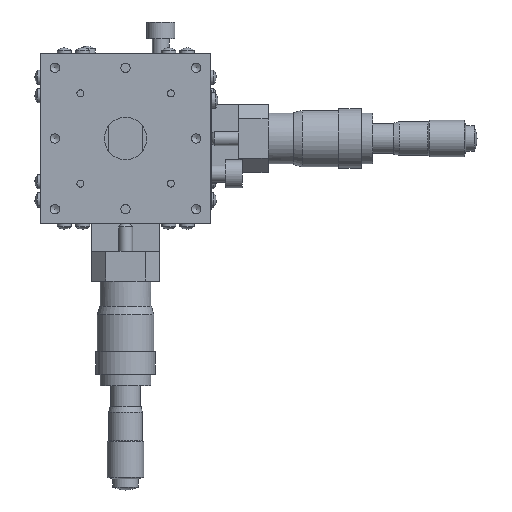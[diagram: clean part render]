
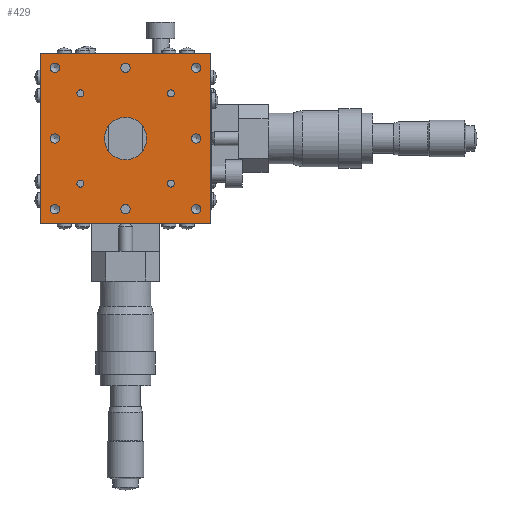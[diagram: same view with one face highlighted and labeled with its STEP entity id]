
A CAD part, top view. The second image highlights one B-rep face of the part: STEP entity #429.
In plain terms, the highlighted planar face has unit normal (0, 0, 1).
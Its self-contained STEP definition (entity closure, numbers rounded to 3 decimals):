
#429 = ADVANCED_FACE( '', ( #1135, #1136, #1137, #1138, #1139, #1140, #1141, #1142, #1143, #1144, #1145, #1146, #1147, #1148 ), #1149, .T. );
#1135 = FACE_BOUND( '', #2360, .T. );
#1136 = FACE_BOUND( '', #2361, .T. );
#1137 = FACE_BOUND( '', #2362, .T. );
#1138 = FACE_BOUND( '', #2363, .T. );
#1139 = FACE_BOUND( '', #2364, .T. );
#1140 = FACE_BOUND( '', #2365, .T. );
#1141 = FACE_BOUND( '', #2366, .T. );
#1142 = FACE_BOUND( '', #2367, .T. );
#1143 = FACE_BOUND( '', #2368, .T. );
#1144 = FACE_BOUND( '', #2369, .T. );
#1145 = FACE_BOUND( '', #2370, .T. );
#1146 = FACE_BOUND( '', #2371, .T. );
#1147 = FACE_OUTER_BOUND( '', #2372, .T. );
#1148 = FACE_BOUND( '', #2373, .T. );
#1149 = PLANE( '', #2374 );
#2360 = EDGE_LOOP( '', ( #3618 ) );
#2361 = EDGE_LOOP( '', ( #3619 ) );
#2362 = EDGE_LOOP( '', ( #3620 ) );
#2363 = EDGE_LOOP( '', ( #3621 ) );
#2364 = EDGE_LOOP( '', ( #3622 ) );
#2365 = EDGE_LOOP( '', ( #3623 ) );
#2366 = EDGE_LOOP( '', ( #3624 ) );
#2367 = EDGE_LOOP( '', ( #3625 ) );
#2368 = EDGE_LOOP( '', ( #3626 ) );
#2369 = EDGE_LOOP( '', ( #3627 ) );
#2370 = EDGE_LOOP( '', ( #3628 ) );
#2371 = EDGE_LOOP( '', ( #3629 ) );
#2372 = EDGE_LOOP( '', ( #3630, #3631, #3632, #3633 ) );
#2373 = EDGE_LOOP( '', ( #3634 ) );
#2374 = AXIS2_PLACEMENT_3D( '', #3635, #3636, #3637 );
#3618 = ORIENTED_EDGE( '', *, *, #5931, .T. );
#3619 = ORIENTED_EDGE( '', *, *, #5932, .T. );
#3620 = ORIENTED_EDGE( '', *, *, #5933, .T. );
#3621 = ORIENTED_EDGE( '', *, *, #5934, .T. );
#3622 = ORIENTED_EDGE( '', *, *, #5935, .T. );
#3623 = ORIENTED_EDGE( '', *, *, #5936, .T. );
#3624 = ORIENTED_EDGE( '', *, *, #5937, .T. );
#3625 = ORIENTED_EDGE( '', *, *, #5938, .T. );
#3626 = ORIENTED_EDGE( '', *, *, #5939, .T. );
#3627 = ORIENTED_EDGE( '', *, *, #5940, .T. );
#3628 = ORIENTED_EDGE( '', *, *, #5941, .T. );
#3629 = ORIENTED_EDGE( '', *, *, #5942, .T. );
#3630 = ORIENTED_EDGE( '', *, *, #5852, .F. );
#3631 = ORIENTED_EDGE( '', *, *, #5943, .F. );
#3632 = ORIENTED_EDGE( '', *, *, #5944, .F. );
#3633 = ORIENTED_EDGE( '', *, *, #5914, .F. );
#3634 = ORIENTED_EDGE( '', *, *, #5945, .T. );
#3635 = CARTESIAN_POINT( '', ( 0., 0., 40. ) );
#3636 = DIRECTION( '', ( 0., 0., 1. ) );
#3637 = DIRECTION( '', ( 0., 1., 0. ) );
#5852 = EDGE_CURVE( '', #6740, #6742, #6743, .T. );
#5914 = EDGE_CURVE( '', #6742, #6843, #6844, .T. );
#5931 = EDGE_CURVE( '', #6871, #6871, #6872, .T. );
#5932 = EDGE_CURVE( '', #6873, #6873, #6874, .T. );
#5933 = EDGE_CURVE( '', #6875, #6875, #6876, .T. );
#5934 = EDGE_CURVE( '', #6877, #6877, #6878, .T. );
#5935 = EDGE_CURVE( '', #6879, #6879, #6880, .T. );
#5936 = EDGE_CURVE( '', #6881, #6881, #6882, .T. );
#5937 = EDGE_CURVE( '', #6883, #6883, #6884, .T. );
#5938 = EDGE_CURVE( '', #6885, #6885, #6886, .T. );
#5939 = EDGE_CURVE( '', #6887, #6887, #6888, .T. );
#5940 = EDGE_CURVE( '', #6889, #6889, #6890, .T. );
#5941 = EDGE_CURVE( '', #6891, #6891, #6892, .T. );
#5942 = EDGE_CURVE( '', #6893, #6893, #6894, .T. );
#5943 = EDGE_CURVE( '', #6895, #6740, #6896, .T. );
#5944 = EDGE_CURVE( '', #6843, #6895, #6897, .T. );
#5945 = EDGE_CURVE( '', #6898, #6898, #6899, .T. );
#6740 = VERTEX_POINT( '', #8052 );
#6742 = VERTEX_POINT( '', #8055 );
#6743 = LINE( '', #8056, #8057 );
#6843 = VERTEX_POINT( '', #8170 );
#6844 = LINE( '', #8171, #8172 );
#6871 = VERTEX_POINT( '', #8204 );
#6872 = CIRCLE( '', #8205, 1.25 );
#6873 = VERTEX_POINT( '', #8206 );
#6874 = CIRCLE( '', #8207, 1.25 );
#6875 = VERTEX_POINT( '', #8208 );
#6876 = CIRCLE( '', #8209, 1.25 );
#6877 = VERTEX_POINT( '', #8210 );
#6878 = CIRCLE( '', #8211, 1.25 );
#6879 = VERTEX_POINT( '', #8212 );
#6880 = CIRCLE( '', #8213, 1.65 );
#6881 = VERTEX_POINT( '', #8214 );
#6882 = CIRCLE( '', #8215, 1.65 );
#6883 = VERTEX_POINT( '', #8216 );
#6884 = CIRCLE( '', #8217, 1.65 );
#6885 = VERTEX_POINT( '', #8218 );
#6886 = CIRCLE( '', #8219, 1.65 );
#6887 = VERTEX_POINT( '', #8220 );
#6888 = CIRCLE( '', #8221, 1.65 );
#6889 = VERTEX_POINT( '', #8222 );
#6890 = CIRCLE( '', #8223, 1.65 );
#6891 = VERTEX_POINT( '', #8224 );
#6892 = CIRCLE( '', #8225, 1.65 );
#6893 = VERTEX_POINT( '', #8226 );
#6894 = CIRCLE( '', #8227, 1.65 );
#6895 = VERTEX_POINT( '', #8228 );
#6896 = LINE( '', #8229, #8230 );
#6897 = LINE( '', #8231, #8232 );
#6898 = VERTEX_POINT( '', #8233 );
#6899 = CIRCLE( '', #8234, 7.5 );
#8052 = CARTESIAN_POINT( '', ( -30., 30., 40. ) );
#8055 = CARTESIAN_POINT( '', ( 30., 30., 40. ) );
#8056 = CARTESIAN_POINT( '', ( 0., 30., 40. ) );
#8057 = VECTOR( '', #9682, 1000. );
#8170 = CARTESIAN_POINT( '', ( 30., -30., 40. ) );
#8171 = CARTESIAN_POINT( '', ( 30., 0., 40. ) );
#8172 = VECTOR( '', #9783, 1000. );
#8204 = CARTESIAN_POINT( '', ( -16., 14.75, 40. ) );
#8205 = AXIS2_PLACEMENT_3D( '', #9807, #9808, #9809 );
#8206 = CARTESIAN_POINT( '', ( 16., 14.75, 40. ) );
#8207 = AXIS2_PLACEMENT_3D( '', #9810, #9811, #9812 );
#8208 = CARTESIAN_POINT( '', ( 16., -17.25, 40. ) );
#8209 = AXIS2_PLACEMENT_3D( '', #9813, #9814, #9815 );
#8210 = CARTESIAN_POINT( '', ( -16., -17.25, 40. ) );
#8211 = AXIS2_PLACEMENT_3D( '', #9816, #9817, #9818 );
#8212 = CARTESIAN_POINT( '', ( -25., -1.65, 40. ) );
#8213 = AXIS2_PLACEMENT_3D( '', #9819, #9820, #9821 );
#8214 = CARTESIAN_POINT( '', ( -25., 23.35, 40. ) );
#8215 = AXIS2_PLACEMENT_3D( '', #9822, #9823, #9824 );
#8216 = CARTESIAN_POINT( '', ( 0., 23.35, 40. ) );
#8217 = AXIS2_PLACEMENT_3D( '', #9825, #9826, #9827 );
#8218 = CARTESIAN_POINT( '', ( 25., 23.35, 40. ) );
#8219 = AXIS2_PLACEMENT_3D( '', #9828, #9829, #9830 );
#8220 = CARTESIAN_POINT( '', ( 25., -1.65, 40. ) );
#8221 = AXIS2_PLACEMENT_3D( '', #9831, #9832, #9833 );
#8222 = CARTESIAN_POINT( '', ( 25., -26.65, 40. ) );
#8223 = AXIS2_PLACEMENT_3D( '', #9834, #9835, #9836 );
#8224 = CARTESIAN_POINT( '', ( 0., -26.65, 40. ) );
#8225 = AXIS2_PLACEMENT_3D( '', #9837, #9838, #9839 );
#8226 = CARTESIAN_POINT( '', ( -25., -26.65, 40. ) );
#8227 = AXIS2_PLACEMENT_3D( '', #9840, #9841, #9842 );
#8228 = CARTESIAN_POINT( '', ( -30., -30., 40. ) );
#8229 = CARTESIAN_POINT( '', ( -30., 0., 40. ) );
#8230 = VECTOR( '', #9843, 1000. );
#8231 = CARTESIAN_POINT( '', ( 0., -30., 40. ) );
#8232 = VECTOR( '', #9844, 1000. );
#8233 = CARTESIAN_POINT( '', ( 7.5, 0., 40. ) );
#8234 = AXIS2_PLACEMENT_3D( '', #9845, #9846, #9847 );
#9682 = DIRECTION( '', ( 1., 0., 0. ) );
#9783 = DIRECTION( '', ( 0., -1., 0. ) );
#9807 = CARTESIAN_POINT( '', ( -16., 16., 40. ) );
#9808 = DIRECTION( '', ( 0., 0., -1. ) );
#9809 = DIRECTION( '', ( 0., -1., 0. ) );
#9810 = CARTESIAN_POINT( '', ( 16., 16., 40. ) );
#9811 = DIRECTION( '', ( 0., 0., -1. ) );
#9812 = DIRECTION( '', ( 0., -1., 0. ) );
#9813 = CARTESIAN_POINT( '', ( 16., -16., 40. ) );
#9814 = DIRECTION( '', ( 0., 0., -1. ) );
#9815 = DIRECTION( '', ( 0., -1., 0. ) );
#9816 = CARTESIAN_POINT( '', ( -16., -16., 40. ) );
#9817 = DIRECTION( '', ( 0., 0., -1. ) );
#9818 = DIRECTION( '', ( 0., -1., 0. ) );
#9819 = CARTESIAN_POINT( '', ( -25., 0., 40. ) );
#9820 = DIRECTION( '', ( 0., 0., -1. ) );
#9821 = DIRECTION( '', ( 0., -1., 0. ) );
#9822 = CARTESIAN_POINT( '', ( -25., 25., 40. ) );
#9823 = DIRECTION( '', ( 0., 0., -1. ) );
#9824 = DIRECTION( '', ( 0., -1., 0. ) );
#9825 = CARTESIAN_POINT( '', ( 0., 25., 40. ) );
#9826 = DIRECTION( '', ( 0., 0., -1. ) );
#9827 = DIRECTION( '', ( 0., -1., 0. ) );
#9828 = CARTESIAN_POINT( '', ( 25., 25., 40. ) );
#9829 = DIRECTION( '', ( 0., 0., -1. ) );
#9830 = DIRECTION( '', ( 0., -1., 0. ) );
#9831 = CARTESIAN_POINT( '', ( 25., 0., 40. ) );
#9832 = DIRECTION( '', ( 0., 0., -1. ) );
#9833 = DIRECTION( '', ( 0., -1., 0. ) );
#9834 = CARTESIAN_POINT( '', ( 25., -25., 40. ) );
#9835 = DIRECTION( '', ( 0., 0., -1. ) );
#9836 = DIRECTION( '', ( 0., -1., 0. ) );
#9837 = CARTESIAN_POINT( '', ( 0., -25., 40. ) );
#9838 = DIRECTION( '', ( 0., 0., -1. ) );
#9839 = DIRECTION( '', ( 0., -1., 0. ) );
#9840 = CARTESIAN_POINT( '', ( -25., -25., 40. ) );
#9841 = DIRECTION( '', ( 0., 0., -1. ) );
#9842 = DIRECTION( '', ( 0., -1., 0. ) );
#9843 = DIRECTION( '', ( 0., 1., 0. ) );
#9844 = DIRECTION( '', ( -1., 0., 0. ) );
#9845 = CARTESIAN_POINT( '', ( 0., 0., 40. ) );
#9846 = DIRECTION( '', ( 0., 0., -1. ) );
#9847 = DIRECTION( '', ( 1., 0., 0. ) );
